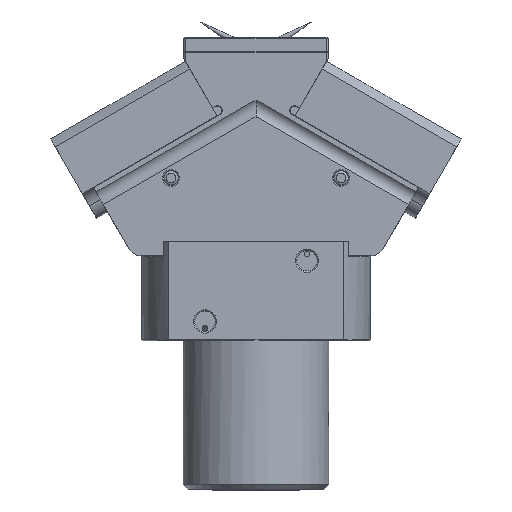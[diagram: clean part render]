
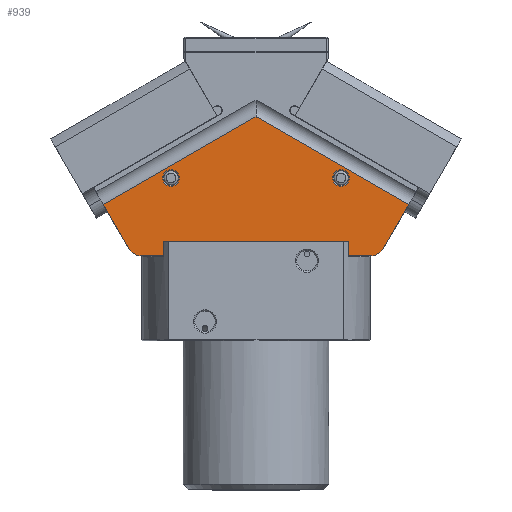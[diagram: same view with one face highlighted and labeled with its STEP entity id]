
A CAD part, front view. The second image highlights one B-rep face of the part: STEP entity #939.
In plain terms, the highlighted planar face has unit normal (0, -1, 0).
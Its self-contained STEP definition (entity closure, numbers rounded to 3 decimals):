
#495=FACE_BOUND('',#2316,.T.);
#496=FACE_BOUND('',#2317,.T.);
#939=ADVANCED_FACE('',(#495,#496,#1727),#1324,.T.);
#1324=PLANE('',#8839);
#1727=FACE_OUTER_BOUND('',#2318,.T.);
#2316=EDGE_LOOP('',(#4380));
#2317=EDGE_LOOP('',(#4381));
#2318=EDGE_LOOP('',(#4382,#4383,#4384,#4385,#4386,#4387,#4388,#4389,#4390,
#4391,#4392,#4393));
#2769=CIRCLE('',#8794,3.);
#2771=CIRCLE('',#8797,3.);
#2781=CIRCLE('',#8836,1.7);
#2782=CIRCLE('',#8837,1.7);
#2783=CIRCLE('',#8838,1.5);
#4380=ORIENTED_EDGE('',*,*,#6611,.T.);
#4381=ORIENTED_EDGE('',*,*,#6612,.T.);
#4382=ORIENTED_EDGE('',*,*,#6513,.F.);
#4383=ORIENTED_EDGE('',*,*,#6613,.T.);
#4384=ORIENTED_EDGE('',*,*,#6567,.T.);
#4385=ORIENTED_EDGE('',*,*,#6614,.F.);
#4386=ORIENTED_EDGE('',*,*,#6531,.T.);
#4387=ORIENTED_EDGE('',*,*,#6598,.F.);
#4388=ORIENTED_EDGE('',*,*,#6597,.F.);
#4389=ORIENTED_EDGE('',*,*,#6615,.F.);
#4390=ORIENTED_EDGE('',*,*,#6590,.F.);
#4391=ORIENTED_EDGE('',*,*,#6588,.F.);
#4392=ORIENTED_EDGE('',*,*,#6535,.T.);
#4393=ORIENTED_EDGE('',*,*,#6616,.F.);
#5555=VERTEX_POINT('',#14487);
#5556=VERTEX_POINT('',#14489);
#5567=VERTEX_POINT('',#14526);
#5568=VERTEX_POINT('',#14527);
#5571=VERTEX_POINT('',#14535);
#5572=VERTEX_POINT('',#14536);
#5591=VERTEX_POINT('',#14599);
#5592=VERTEX_POINT('',#14600);
#5600=VERTEX_POINT('',#14637);
#5601=VERTEX_POINT('',#14641);
#5603=VERTEX_POINT('',#14647);
#5606=VERTEX_POINT('',#14653);
#5609=VERTEX_POINT('',#14678);
#5610=VERTEX_POINT('',#14680);
#6513=EDGE_CURVE('',#5555,#5556,#7299,.T.);
#6531=EDGE_CURVE('',#5567,#5568,#2769,.T.);
#6535=EDGE_CURVE('',#5571,#5572,#2771,.T.);
#6567=EDGE_CURVE('',#5591,#5592,#7341,.T.);
#6588=EDGE_CURVE('',#5571,#5600,#7359,.T.);
#6590=EDGE_CURVE('',#5600,#5601,#7361,.T.);
#6597=EDGE_CURVE('',#5606,#5603,#7368,.T.);
#6598=EDGE_CURVE('',#5603,#5568,#7369,.T.);
#6611=EDGE_CURVE('',#5609,#5609,#2781,.T.);
#6612=EDGE_CURVE('',#5610,#5610,#2782,.T.);
#6613=EDGE_CURVE('',#5555,#5591,#2783,.T.);
#6614=EDGE_CURVE('',#5567,#5592,#7380,.T.);
#6615=EDGE_CURVE('',#5601,#5606,#7381,.T.);
#6616=EDGE_CURVE('',#5556,#5572,#7382,.T.);
#7299=LINE('',#14488,#7973);
#7341=LINE('',#14598,#8015);
#7359=LINE('',#14636,#8033);
#7361=LINE('',#14640,#8035);
#7368=LINE('',#14654,#8042);
#7369=LINE('',#14656,#8043);
#7380=LINE('',#14682,#8054);
#7381=LINE('',#14683,#8055);
#7382=LINE('',#14684,#8056);
#7973=VECTOR('',#10666,1.);
#8015=VECTOR('',#10774,1.);
#8033=VECTOR('',#10814,1.);
#8035=VECTOR('',#10818,1.);
#8042=VECTOR('',#10827,1.);
#8043=VECTOR('',#10830,1.);
#8054=VECTOR('',#10863,1.);
#8055=VECTOR('',#10864,1.);
#8056=VECTOR('',#10865,1.);
#8794=AXIS2_PLACEMENT_3D('',#14525,#10705,#10706);
#8797=AXIS2_PLACEMENT_3D('',#14534,#10713,#10714);
#8836=AXIS2_PLACEMENT_3D('',#14677,#10857,#10858);
#8837=AXIS2_PLACEMENT_3D('',#14679,#10859,#10860);
#8838=AXIS2_PLACEMENT_3D('',#14681,#10861,#10862);
#8839=AXIS2_PLACEMENT_3D('',#14685,#10866,#10867);
#10666=DIRECTION('',(0.866,0.,-0.5));
#10705=DIRECTION('',(0.,-1.,0.));
#10706=DIRECTION('',(0.,0.,-1.));
#10713=DIRECTION('',(0.,-1.,0.));
#10714=DIRECTION('',(0.,0.,-1.));
#10774=DIRECTION('',(-0.866,0.,-0.5));
#10814=DIRECTION('',(-1.,0.,0.));
#10818=DIRECTION('',(0.,0.,1.));
#10827=DIRECTION('',(0.,0.,-1.));
#10830=DIRECTION('',(-1.,0.,0.));
#10857=DIRECTION('',(0.,1.,0.));
#10858=DIRECTION('',(0.,0.,-1.));
#10859=DIRECTION('',(0.,1.,0.));
#10860=DIRECTION('',(0.,0.,-1.));
#10861=DIRECTION('',(0.,-1.,0.));
#10862=DIRECTION('',(0.,0.,-1.));
#10863=DIRECTION('',(-0.5,0.,0.866));
#10864=DIRECTION('',(-1.,0.,0.));
#10865=DIRECTION('',(-0.5,0.,-0.866));
#10866=DIRECTION('',(0.,-1.,0.));
#10867=DIRECTION('',(0.,0.,-1.));
#14487=CARTESIAN_POINT('',(0.75,-15.,-16.683));
#14488=CARTESIAN_POINT('',(-6.508,-15.,-12.492));
#14489=CARTESIAN_POINT('',(31.45,-15.,-34.408));
#14525=CARTESIAN_POINT('',(-23.602,-15.,-42.));
#14526=CARTESIAN_POINT('',(-26.201,-15.,-43.5));
#14527=CARTESIAN_POINT('',(-23.602,-15.,-45.));
#14534=CARTESIAN_POINT('',(23.602,-15.,-42.));
#14535=CARTESIAN_POINT('',(23.602,-15.,-45.));
#14536=CARTESIAN_POINT('',(26.201,-15.,-43.5));
#14598=CARTESIAN_POINT('',(6.508,-15.,-12.492));
#14599=CARTESIAN_POINT('',(-0.75,-15.,-16.683));
#14600=CARTESIAN_POINT('',(-31.45,-15.,-34.408));
#14636=CARTESIAN_POINT('',(25.334,-15.,-45.));
#14637=CARTESIAN_POINT('',(19.,-15.,-45.));
#14640=CARTESIAN_POINT('',(19.,-15.,-45.));
#14641=CARTESIAN_POINT('',(19.,-15.,-42.));
#14647=CARTESIAN_POINT('',(-19.,-15.,-45.));
#14653=CARTESIAN_POINT('',(-19.,-15.,-42.));
#14654=CARTESIAN_POINT('',(-19.,-15.,-42.));
#14656=CARTESIAN_POINT('',(-19.,-15.,-45.));
#14677=CARTESIAN_POINT('',(17.5,-15.,-28.95));
#14678=CARTESIAN_POINT('',(17.5,-15.,-30.65));
#14679=CARTESIAN_POINT('',(-17.5,-15.,-28.95));
#14680=CARTESIAN_POINT('',(-17.5,-15.,-30.65));
#14681=CARTESIAN_POINT('',(0.,-15.,-17.982));
#14682=CARTESIAN_POINT('',(-25.334,-15.,-45.));
#14683=CARTESIAN_POINT('',(19.,-15.,-42.));
#14684=CARTESIAN_POINT('',(35.9,-15.,-26.7));
#14685=CARTESIAN_POINT('',(0.,-15.,-3.));
